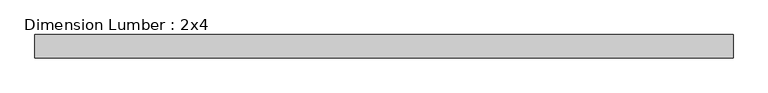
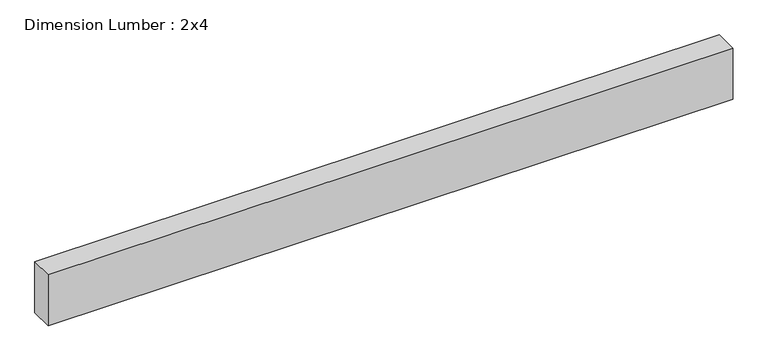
"""IFC4 building model written with IfcOpenShell, lengths in millimetres: beam geometry, Dimension Lumber : 2x4."""

from ifc_helpers import new_model, si_unit, frame, origin, place, context, project, spatial, polyline, outline, extrude, source, transform, mapped, element, save


def dimension_lumber_2x4_5bbb1fcc(model_context):
    return source(origin(), model_context, "Body", "SweptSolid", [
        extrude(outline(polyline([(565.1499994, 19.05), (565.1499994, -19.05), (-565.1499994, -19.05), (-565.1499994, 19.05), (565.1499994, 19.05)])), frame((0.0, 0.0, -44.45), z_axis=(0.0, 0.0, 1.0), x_axis=(1.0, 0.0, 0.0)), (0.0, 0.0, 1.0), 88.9),
    ])


if __name__ == "__main__":
    model = new_model("IFC4")
    model_context = context("Model", 3, world=origin())
    ifc_project = project(units=[si_unit("LENGTHUNIT", "METRE", prefix="MILLI")], contexts=[model_context])
    site = spatial("IfcSite", under=ifc_project)
    building = spatial("IfcBuilding", under=site)
    placement = place(None, origin())
    dimension_lumber_2x4_shape = dimension_lumber_2x4_5bbb1fcc(model_context)
    element("IfcBeam", 1, ObjectType="Dimension Lumber : 2x4", at=placement, inside=building, context=model_context, shape_type="MappedRepresentation", body=[
        mapped(dimension_lumber_2x4_shape, transform((0.0, 0.0, 0.0), x_axis=(1.0, 0.0, 0.0), y_axis=(0.0, 1.0, 0.0), z_axis=(0.0, 0.0, 1.0))),
    ])
    save(model, "model.ifc")
